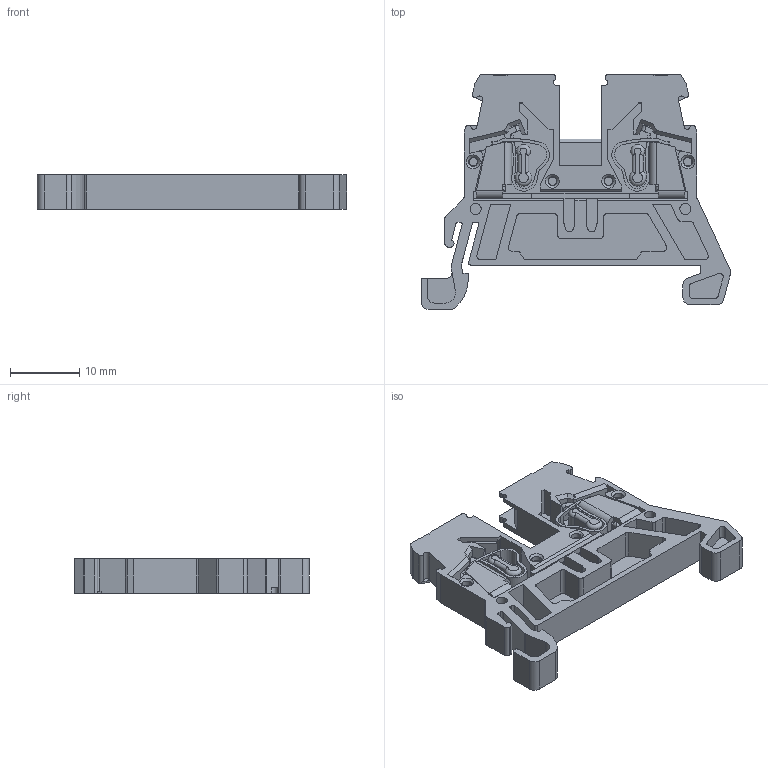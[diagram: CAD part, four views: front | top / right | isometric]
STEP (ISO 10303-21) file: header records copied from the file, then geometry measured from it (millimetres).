
FILE_DESCRIPTION (( 'STEP AP203' ), '1' );
FILE_NAME ('ﾊﾏﾐ1ﾌ-2,5ﾂ-2ﾂ.STEP', '2019-03-01T13:06:34', ( '' ), ( '' ), 'SwSTEP 2.0', 'SolidWorks 2016', '' );
FILE_SCHEMA (( 'CONFIG_CONTROL_DESIGN' ));
Length unit declared in the file: millimetre
Products named in the file (1): ﾊﾏﾐ1ﾌ-2,5ﾂ-2ﾂ
Bounding box: 44.7 x 33.9 x 5 mm (x, y, z)
Volume: 2615.5 mm3; surface area: 5633.4 mm2
Topology: 4 solids, 4 shells, 784 faces, 2175 edges, 1420 vertices
Faces by surface type: plane 513, cylinder 178, bspline 71, cone 14, torus 8
Full cylindrical faces by diameter (mm): 1.4 x4, 1.6 x6
Entity records: 28978 total; most frequent: CARTESIAN_POINT 9231, ORIENTED_EDGE 4302, DIRECTION 3727, EDGE_CURVE 2151, LINE 1599, VECTOR 1599, VERTEX_POINT 1420, AXIS2_PLACEMENT_3D 1064
